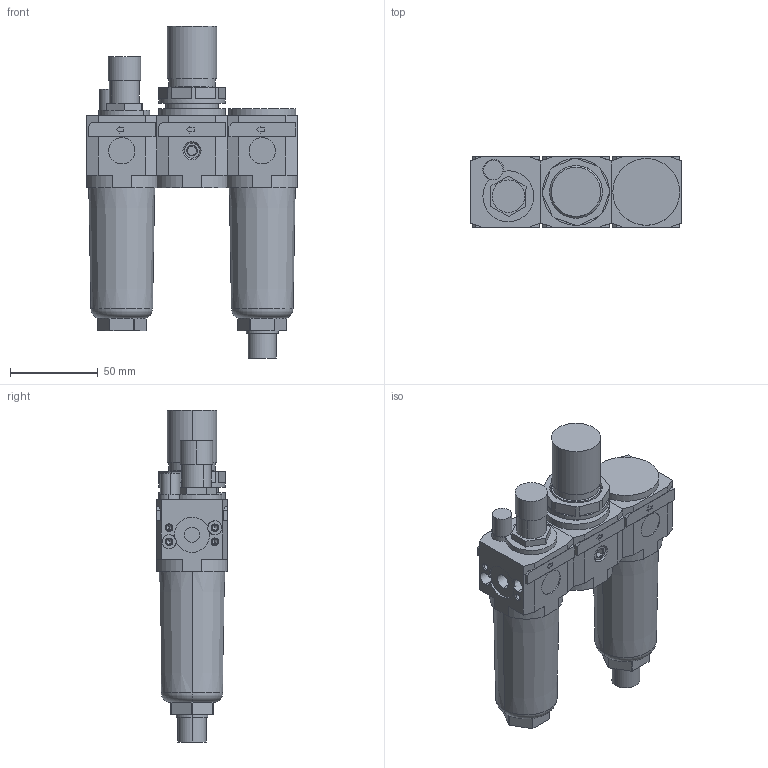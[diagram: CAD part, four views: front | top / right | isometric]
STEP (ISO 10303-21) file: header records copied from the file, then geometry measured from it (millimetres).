
FILE_DESCRIPTION((''),'2;1');
FILE_NAME('I:\DOC-EDP\Lib-3d\FRL\17107A_P.stp','2003-06-16T14:49:57',('maffial1'),(''),'Autodesk Inventor 7','Autodesk Inventor 7','');
FILE_SCHEMA(('AUTOMOTIVE_DESIGN { 1 0 10303 214 1 1 1 1 }'));
Length unit declared in the file: millimetre
Products named in the file (7): 17107A_P; 17101A_P; 17103A_P; 17102A_; 17102A_(1); RS_1701_12; RK_1701_020
Assembly tree (6 placements, depth 3):
  17107A_P
    17101A_P
    17103A_P
    17102A_
      17102A_(1)
      RS_1701_12
      RK_1701_020
Bounding box: 120 x 40 x 189 mm (x, y, z)
Volume: 389817.6 mm3; surface area: 73586 mm2
Topology: 5 solids, 11 shells, 535 faces, 1305 edges, 819 vertices
Faces by surface type: plane 187, bspline 166, cylinder 122, cone 52, torus 8
Entity records: 16848 total; most frequent: CARTESIAN_POINT 4510, ORIENTED_EDGE 2538, DIRECTION 2448, EDGE_CURVE 1269, AXIS2_PLACEMENT_3D 821, VERTEX_POINT 819, VECTOR 806, LINE 806
